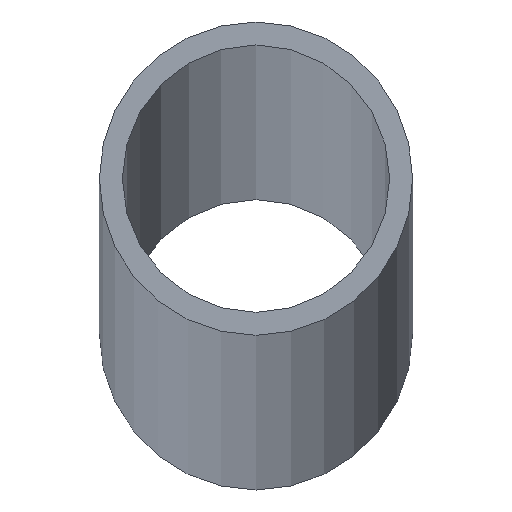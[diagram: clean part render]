
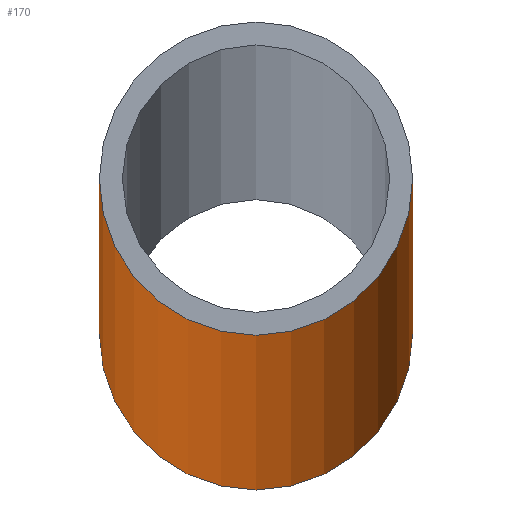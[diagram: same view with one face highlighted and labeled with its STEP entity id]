
A CAD part, top view. The second image highlights one B-rep face of the part: STEP entity #170.
In plain terms, the highlighted cylindrical face has radius 10.25 mm (diameter 20.5 mm), a partial arc.
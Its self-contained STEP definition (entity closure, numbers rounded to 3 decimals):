
#25=CARTESIAN_POINT('',(0.,0.,-2900.));
#26=DIRECTION('',(0.,0.,1.));
#27=DIRECTION('',(-1.,0.,0.));
#28=AXIS2_PLACEMENT_3D('',#25,#26,#27);
#49=DIRECTION('',(0.,0.,1.));
#50=VECTOR('',#49,5800.);
#51=CARTESIAN_POINT('',(10.25,0.,-2900.));
#52=LINE('',#51,#50);
#56=DIRECTION('',(0.,0.,1.));
#57=VECTOR('',#56,5800.);
#58=CARTESIAN_POINT('',(-10.25,0.,-2900.));
#59=LINE('',#58,#57);
#71=CARTESIAN_POINT('',(0.,0.,2900.));
#72=DIRECTION('',(0.,0.,1.));
#73=DIRECTION('',(-1.,0.,0.));
#74=AXIS2_PLACEMENT_3D('',#71,#72,#73);
#109=CARTESIAN_POINT('',(10.25,0.,-2900.));
#110=CARTESIAN_POINT('',(-10.25,0.,-2900.));
#111=VERTEX_POINT('',#109);
#112=VERTEX_POINT('',#110);
#117=CARTESIAN_POINT('',(10.25,0.,2900.));
#118=CARTESIAN_POINT('',(-10.25,0.,2900.));
#119=VERTEX_POINT('',#117);
#120=VERTEX_POINT('',#118);
#158=CARTESIAN_POINT('',(0.,0.,-2900.));
#159=DIRECTION('',(0.,0.,1.));
#160=DIRECTION('',(1.,0.,0.));
#161=AXIS2_PLACEMENT_3D('',#158,#159,#160);
#162=CYLINDRICAL_SURFACE('',#161,10.25);
#163=ORIENTED_EDGE('',*,*,#132,.F.);
#164=ORIENTED_EDGE('',*,*,#153,.T.);
#166=ORIENTED_EDGE('',*,*,#165,.T.);
#167=ORIENTED_EDGE('',*,*,#149,.F.);
#168=EDGE_LOOP('',(#163,#164,#166,#167));
#169=FACE_OUTER_BOUND('',#168,.F.);
#29=CIRCLE('',#28,10.25);
#75=CIRCLE('',#74,10.25);
#132=EDGE_CURVE('',#112,#111,#29,.T.);
#149=EDGE_CURVE('',#111,#119,#52,.T.);
#153=EDGE_CURVE('',#112,#120,#59,.T.);
#165=EDGE_CURVE('',#120,#119,#75,.T.);
#170=ADVANCED_FACE('',(#169),#162,.T.);
